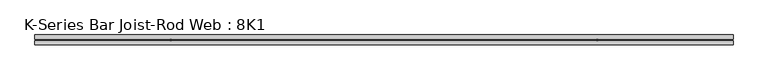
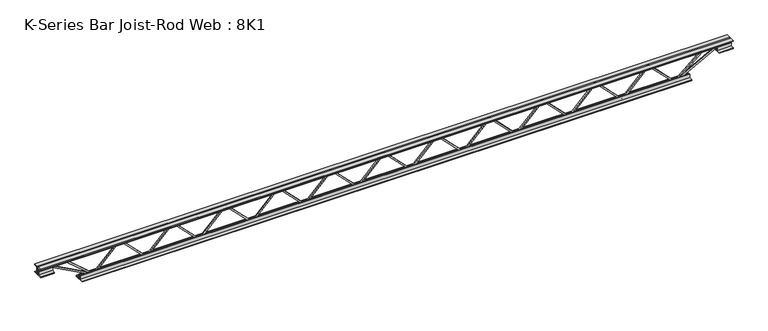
"""IFC4 building model written with IfcOpenShell, lengths in millimetres: beam geometry, K-Series Bar Joist-Rod Web : 8K1."""

from ifc_helpers import new_model, si_unit, frame, origin, place, context, project, spatial, polyline, outline, extrude, source, transform, mapped, element, save


def k_series_bar_joist_rod_web_8k1_fc2c6b5f(model_context):
    return source(origin(), model_context, "Body", "SweptSolid", [
        extrude(outline(polyline([(-90.4875, 1358.1275834), (-100.0125, 1358.1275834), (-100.0125, 1363.2961981), (90.4875, 1550.9644243), (90.4875, 1553.3271949), (-100.0125, 1740.9954211), (-100.0125, 1746.1640358), (-90.4875, 1746.1640358), (-90.4875, 1744.9826505), (100.0125, 1557.3144243), (100.0125, 1546.9771949), (-90.4875, 1359.3089687), (-90.4875, 1358.1275834)])), frame((0.0, -4.7625, 0.0), z_axis=(0.0, 1.0, 0.0), x_axis=(0.0, 0.0, 1.0)), (0.0, 0.0, 1.0), 9.525),
        extrude(outline(polyline([(-90.4875, 970.091131), (-100.0125, 970.091131), (-100.0125, 975.2597457), (90.4875, 1162.9279719), (90.4875, 1165.2907425), (-100.0125, 1352.9589687), (-100.0125, 1358.1275834), (-90.4875, 1358.1275834), (-90.4875, 1356.9461981), (100.0125, 1169.2779719), (100.0125, 1158.9407425), (-90.4875, 971.2725163), (-90.4875, 970.091131)])), frame((0.0, -4.7625, 0.0), z_axis=(0.0, 1.0, 0.0), x_axis=(0.0, 0.0, 1.0)), (0.0, 0.0, 1.0), 9.525),
        extrude(outline(polyline([(-90.4875, 582.0546786), (-100.0125, 582.0546786), (-100.0125, 587.2232933), (90.4875, 774.8915195), (90.4875, 777.2542901), (-100.0125, 964.9225163), (-100.0125, 970.091131), (-90.4875, 970.091131), (-90.4875, 968.9097457), (100.0125, 781.2415195), (100.0125, 770.9042901), (-90.4875, 583.2360639), (-90.4875, 582.0546786)])), frame((0.0, -4.7625, 0.0), z_axis=(0.0, 1.0, 0.0), x_axis=(0.0, 0.0, 1.0)), (0.0, 0.0, 1.0), 9.525),
        extrude(outline(polyline([(-90.4875, 194.0182262), (-100.0125, 194.0182262), (-100.0125, 199.1868409), (90.4875, 386.8550671), (90.4875, 389.2178377), (-100.0125, 576.8860639), (-100.0125, 582.0546786), (-90.4875, 582.0546786), (-90.4875, 580.8732933), (100.0125, 393.2050671), (100.0125, 382.8678377), (-90.4875, 195.1996115), (-90.4875, 194.0182262)])), frame((0.0, -4.7625, 0.0), z_axis=(0.0, 1.0, 0.0), x_axis=(0.0, 0.0, 1.0)), (0.0, 0.0, 1.0), 9.525),
        extrude(outline(polyline([(-90.4875, -194.0182262), (-100.0125, -194.0182262), (-100.0125, -188.8496115), (90.4875, -1.1813853), (90.4875, 1.1813853), (-100.0125, 188.8496115), (-100.0125, 194.0182262), (-90.4875, 194.0182262), (-90.4875, 192.8368409), (100.0125, 5.1686147), (100.0125, -5.1686147), (-90.4875, -192.8368409), (-90.4875, -194.0182262)])), frame((0.0, -4.7625, 0.0), z_axis=(0.0, 1.0, 0.0), x_axis=(0.0, 0.0, 1.0)), (0.0, 0.0, 1.0), 9.525),
        extrude(outline(polyline([(-90.4875, -582.0546786), (-100.0125, -582.0546786), (-100.0125, -576.8860639), (90.4875, -389.2178377), (90.4875, -386.8550671), (-100.0125, -199.1868409), (-100.0125, -194.0182262), (-90.4875, -194.0182262), (-90.4875, -195.1996115), (100.0125, -382.8678377), (100.0125, -393.2050671), (-90.4875, -580.8732933), (-90.4875, -582.0546786)])), frame((0.0, -4.7625, 0.0), z_axis=(0.0, 1.0, 0.0), x_axis=(0.0, 0.0, 1.0)), (0.0, 0.0, 1.0), 9.525),
        extrude(outline(polyline([(-90.4875, -970.091131), (-100.0125, -970.091131), (-100.0125, -964.9225163), (90.4875, -777.2542901), (90.4875, -774.8915195), (-100.0125, -587.2232933), (-100.0125, -582.0546786), (-90.4875, -582.0546786), (-90.4875, -583.2360639), (100.0125, -770.9042901), (100.0125, -781.2415195), (-90.4875, -968.9097457), (-90.4875, -970.091131)])), frame((0.0, -4.7625, 0.0), z_axis=(0.0, 1.0, 0.0), x_axis=(0.0, 0.0, 1.0)), (0.0, 0.0, 1.0), 9.525),
        extrude(outline(polyline([(-90.4875, -1358.1275834), (-100.0125, -1358.1275834), (-100.0125, -1352.9589687), (90.4875, -1165.2907425), (90.4875, -1162.9279719), (-100.0125, -975.2597457), (-100.0125, -970.091131), (-90.4875, -970.091131), (-90.4875, -971.2725163), (100.0125, -1158.9407425), (100.0125, -1169.2779719), (-90.4875, -1356.9461981), (-90.4875, -1358.1275834)])), frame((0.0, -4.7625, 0.0), z_axis=(0.0, 1.0, 0.0), x_axis=(0.0, 0.0, 1.0)), (0.0, 0.0, 1.0), 9.525),
        extrude(outline(polyline([(-90.4875, -1746.1640358), (-100.0125, -1746.1640358), (-100.0125, -1740.9954211), (90.4875, -1553.3271949), (90.4875, -1550.9644243), (-100.0125, -1363.2961981), (-100.0125, -1358.1275834), (-90.4875, -1358.1275834), (-90.4875, -1359.3089687), (100.0125, -1546.9771949), (100.0125, -1557.3144243), (-90.4875, -1744.9826505), (-90.4875, -1746.1640358)])), frame((0.0, -4.7625, 0.0), z_axis=(0.0, 1.0, 0.0), x_axis=(0.0, 0.0, 1.0)), (0.0, 0.0, 1.0), 9.525),
        extrude(outline(polyline([(-90.4875, 1746.1640358), (-100.0125, 1746.1640358), (-100.0125, 1751.3326505), (90.4875, 1939.0008767), (90.4875, 1941.3636473), (-100.0125, 2129.0318735), (-100.0125, 2134.2004882), (-90.4875, 2134.2004882), (-90.4875, 2133.0191029), (100.0125, 1945.3508767), (100.0125, 1935.0136473), (-90.4875, 1747.3454211), (-90.4875, 1746.1640358)])), frame((0.0, -4.7625, 0.0), z_axis=(0.0, 1.0, 0.0), x_axis=(0.0, 0.0, 1.0)), (0.0, 0.0, 1.0), 9.525),
        extrude(outline(polyline([(-90.4875, -2134.2004882), (-100.0125, -2134.2004882), (-100.0125, -2129.0318735), (90.4875, -1941.3636473), (90.4875, -1939.0008767), (-100.0125, -1751.3326505), (-100.0125, -1746.1640358), (-90.4875, -1746.1640358), (-90.4875, -1747.3454211), (100.0125, -1935.0136473), (100.0125, -1945.3508767), (-90.4875, -2133.0191029), (-90.4875, -2134.2004882)])), frame((0.0, -4.7625, 0.0), z_axis=(0.0, 1.0, 0.0), x_axis=(0.0, 0.0, 1.0)), (0.0, 0.0, 1.0), 9.525),
        extrude(outline(polyline([(4.7625, 101.6), (36.5125, 101.6), (36.5125, 95.25), (11.1125, 95.25), (11.1125, 69.85), (4.7625, 69.85), (4.7625, 101.6)])), frame((-2540.6004882, 0.0, 0.0), z_axis=(1.0, 0.0, 0.0), x_axis=(0.0, 1.0, 0.0)), (0.0, 0.0, 1.0), 5081.2009764),
        extrude(outline(polyline([(-4.7625, 101.6), (-4.7625, 69.85), (-11.1125, 69.85), (-11.1125, 95.25), (-36.5125, 95.25), (-36.5125, 101.6), (-4.7625, 101.6)])), frame((-2540.6004882, 0.0, 0.0), z_axis=(1.0, 0.0, 0.0), x_axis=(0.0, 1.0, 0.0)), (0.0, 0.0, 1.0), 5081.2009764),
        extrude(outline(polyline([(-4.7625, 38.1), (-36.5125, 38.1), (-36.5125, 44.45), (-11.1125, 44.45), (-11.1125, 69.85), (-4.7625, 69.85), (-4.7625, 38.1)])), frame((-2540.6004882, 0.0, 0.0), z_axis=(1.0, 0.0, 0.0), x_axis=(0.0, 1.0, 0.0)), (0.0, 0.0, 1.0), 101.6),
        extrude(outline(polyline([(36.5125, 38.1), (4.7625, 38.1), (4.7625, 69.85), (11.1125, 69.85), (11.1125, 44.45), (36.5125, 44.45), (36.5125, 38.1)])), frame((-2540.6004882, 0.0, 0.0), z_axis=(1.0, 0.0, 0.0), x_axis=(0.0, 1.0, 0.0)), (0.0, 0.0, 1.0), 101.6),
        extrude(outline(polyline([(4.7625, 38.1), (4.7625, 69.85), (11.1125, 69.85), (11.1125, 44.45), (36.5125, 44.45), (36.5125, 38.1), (4.7625, 38.1)])), frame((2439.0004882, 0.0, 0.0), z_axis=(1.0, 0.0, 0.0), x_axis=(0.0, 1.0, 0.0)), (0.0, 0.0, 1.0), 101.6),
        extrude(outline(polyline([(-4.7625, 38.1), (-36.5125, 38.1), (-36.5125, 44.45), (-11.1125, 44.45), (-11.1125, 69.85), (-4.7625, 69.85), (-4.7625, 38.1)])), frame((2439.0004882, 0.0, 0.0), z_axis=(1.0, 0.0, 0.0), x_axis=(0.0, 1.0, 0.0)), (0.0, 0.0, 1.0), 101.6),
        extrude(outline(polyline([(4.7625, -101.6), (4.7625, -69.85), (11.1125, -69.85), (11.1125, -95.25), (36.5125, -95.25), (36.5125, -101.6), (4.7625, -101.6)])), frame((-2235.8004882, 0.0, 0.0), z_axis=(1.0, 0.0, 0.0), x_axis=(0.0, 1.0, 0.0)), (0.0, 0.0, 1.0), 4471.6009764),
        extrude(outline(polyline([(-4.7625, -101.6), (-36.5125, -101.6), (-36.5125, -95.25), (-11.1125, -95.25), (-11.1125, -69.85), (-4.7625, -69.85), (-4.7625, -101.6)])), frame((-2235.8004882, 0.0, 0.0), z_axis=(1.0, 0.0, 0.0), x_axis=(0.0, 1.0, 0.0)), (0.0, 0.0, 1.0), 4471.6009764),
        extrude(outline(polyline([(0.0, -9.525), (0.0, 0.0), (346.6425392, 0.0), (346.6425392, -9.525), (0.0, -9.525)])), frame((-2441.2687867, 4.7625, 65.662372), z_axis=(0.47628314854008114, 0.0, 0.8792919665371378), x_axis=(0.8792919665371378, 0.0, -0.47628314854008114)), (0.0, 0.0, 1.0), 9.525),
        extrude(outline(polyline([(0.0, -9.525), (0.0, 0.0), (254.7569079, 0.0), (254.7569079, -9.525), (0.0, -9.525)])), frame((-2331.305142, 4.7625, 66.2229666), z_axis=(0.6480687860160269, 0.0, 0.7615818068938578), x_axis=(0.7615818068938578, 0.0, -0.6480687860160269)), (0.0, 0.0, 1.0), 9.525),
        extrude(outline(polyline([(0.0, -9.525), (0.0, 0.0), (346.6425392, 0.0), (346.6425392, -9.525), (0.0, -9.525)])), frame((2441.2687867, -4.7625, 65.662372), z_axis=(-0.4762831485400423, 0.0, 0.8792919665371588), x_axis=(-0.8792919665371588, 0.0, -0.4762831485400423)), (0.0, 0.0, 1.0), 9.525),
        extrude(outline(polyline([(0.0, -9.525), (0.0, 0.0), (254.7569079, 0.0), (254.7569079, -9.525), (0.0, -9.525)])), frame((2331.305142, -4.7625, 66.2229666), z_axis=(-0.6480687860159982, 0.0, 0.7615818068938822), x_axis=(-0.7615818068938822, 0.0, -0.6480687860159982)), (0.0, 0.0, 1.0), 9.525),
    ])


if __name__ == "__main__":
    model = new_model("IFC4")
    model_context = context("Model", 3, world=origin())
    ifc_project = project(units=[si_unit("LENGTHUNIT", "METRE", prefix="MILLI")], contexts=[model_context])
    site = spatial("IfcSite", under=ifc_project)
    building = spatial("IfcBuilding", under=site)
    placement = place(None, origin())
    k_series_bar_joist_rod_web_8k1_shape = k_series_bar_joist_rod_web_8k1_fc2c6b5f(model_context)
    element("IfcBeam", 1, ObjectType="K-Series Bar Joist-Rod Web : 8K1", at=placement, inside=building, context=model_context, shape_type="MappedRepresentation", body=[
        mapped(k_series_bar_joist_rod_web_8k1_shape, transform((0.0, 0.0, 0.0), x_axis=(1.0, 0.0, 0.0), y_axis=(0.0, 1.0, 0.0), z_axis=(0.0, 0.0, 1.0))),
    ])
    save(model, "model.ifc")
